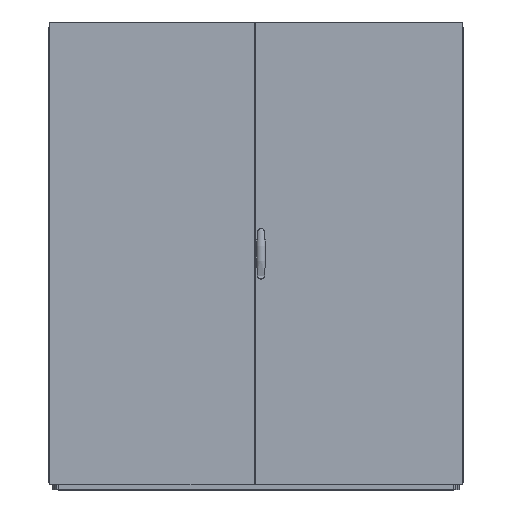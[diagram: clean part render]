
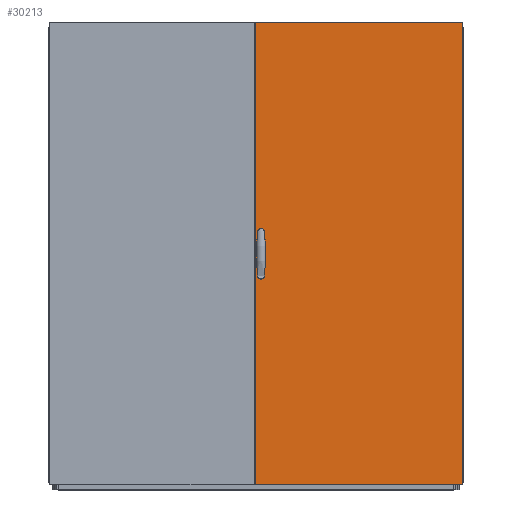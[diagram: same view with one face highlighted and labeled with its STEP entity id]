
A CAD part, top view. The second image highlights one B-rep face of the part: STEP entity #30213.
In plain terms, the highlighted planar face has unit normal (0, 0, 1) as drawn and (0, 0, -1) by its records, which use the part's own axes.
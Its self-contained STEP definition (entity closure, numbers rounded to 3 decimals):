
#392=CIRCLE('',#33959,2.6);
#393=CIRCLE('',#33960,2.6);
#3419=ORIENTED_EDGE('',*,*,#10785,.T.);
#3420=ORIENTED_EDGE('',*,*,#10786,.T.);
#3421=ORIENTED_EDGE('',*,*,#10787,.T.);
#3422=ORIENTED_EDGE('',*,*,#10788,.T.);
#3423=ORIENTED_EDGE('',*,*,#10789,.T.);
#3424=ORIENTED_EDGE('',*,*,#10790,.T.);
#3425=ORIENTED_EDGE('',*,*,#10791,.T.);
#3426=ORIENTED_EDGE('',*,*,#10792,.T.);
#3427=ORIENTED_EDGE('',*,*,#10793,.T.);
#3428=ORIENTED_EDGE('',*,*,#10794,.T.);
#3429=ORIENTED_EDGE('',*,*,#10795,.T.);
#3430=ORIENTED_EDGE('',*,*,#10796,.T.);
#3431=ORIENTED_EDGE('',*,*,#10797,.T.);
#3432=ORIENTED_EDGE('',*,*,#10798,.T.);
#3433=ORIENTED_EDGE('',*,*,#10799,.T.);
#3434=ORIENTED_EDGE('',*,*,#10800,.T.);
#3435=ORIENTED_EDGE('',*,*,#10801,.T.);
#3436=ORIENTED_EDGE('',*,*,#10802,.F.);
#3437=ORIENTED_EDGE('',*,*,#10803,.F.);
#3438=ORIENTED_EDGE('',*,*,#10804,.T.);
#3439=ORIENTED_EDGE('',*,*,#10805,.T.);
#3440=ORIENTED_EDGE('',*,*,#10806,.T.);
#10785=EDGE_CURVE('',#14685,#14686,#17838,.T.);
#10786=EDGE_CURVE('',#14686,#14687,#17839,.T.);
#10787=EDGE_CURVE('',#14687,#14688,#17840,.T.);
#10788=EDGE_CURVE('',#14688,#14689,#17841,.T.);
#10789=EDGE_CURVE('',#14689,#14690,#17842,.T.);
#10790=EDGE_CURVE('',#14690,#14691,#17843,.T.);
#10791=EDGE_CURVE('',#14691,#14692,#17844,.T.);
#10792=EDGE_CURVE('',#14692,#14693,#17845,.T.);
#10793=EDGE_CURVE('',#14693,#14694,#17846,.T.);
#10794=EDGE_CURVE('',#14694,#14695,#17847,.T.);
#10795=EDGE_CURVE('',#14695,#14696,#17848,.T.);
#10796=EDGE_CURVE('',#14696,#14697,#17849,.T.);
#10797=EDGE_CURVE('',#14697,#14698,#17850,.T.);
#10798=EDGE_CURVE('',#14698,#14699,#17851,.T.);
#10799=EDGE_CURVE('',#14699,#14700,#17852,.T.);
#10800=EDGE_CURVE('',#14700,#14685,#17853,.T.);
#10801=EDGE_CURVE('',#14701,#14702,#17854,.T.);
#10802=EDGE_CURVE('',#14703,#14702,#17855,.T.);
#10803=EDGE_CURVE('',#14704,#14703,#17856,.T.);
#10804=EDGE_CURVE('',#14704,#14701,#17857,.T.);
#10805=EDGE_CURVE('',#14705,#14705,#392,.T.);
#10806=EDGE_CURVE('',#14706,#14706,#393,.T.);
#14685=VERTEX_POINT('',#46207);
#14686=VERTEX_POINT('',#46208);
#14687=VERTEX_POINT('',#46210);
#14688=VERTEX_POINT('',#46212);
#14689=VERTEX_POINT('',#46214);
#14690=VERTEX_POINT('',#46216);
#14691=VERTEX_POINT('',#46218);
#14692=VERTEX_POINT('',#46220);
#14693=VERTEX_POINT('',#46222);
#14694=VERTEX_POINT('',#46224);
#14695=VERTEX_POINT('',#46226);
#14696=VERTEX_POINT('',#46228);
#14697=VERTEX_POINT('',#46230);
#14698=VERTEX_POINT('',#46232);
#14699=VERTEX_POINT('',#46234);
#14700=VERTEX_POINT('',#46236);
#14701=VERTEX_POINT('',#46239);
#14702=VERTEX_POINT('',#46240);
#14703=VERTEX_POINT('',#46242);
#14704=VERTEX_POINT('',#46244);
#14705=VERTEX_POINT('',#46247);
#14706=VERTEX_POINT('',#46249);
#17838=LINE('',#46206,#21697);
#17839=LINE('',#46209,#21698);
#17840=LINE('',#46211,#21699);
#17841=LINE('',#46213,#21700);
#17842=LINE('',#46215,#21701);
#17843=LINE('',#46217,#21702);
#17844=LINE('',#46219,#21703);
#17845=LINE('',#46221,#21704);
#17846=LINE('',#46223,#21705);
#17847=LINE('',#46225,#21706);
#17848=LINE('',#46227,#21707);
#17849=LINE('',#46229,#21708);
#17850=LINE('',#46231,#21709);
#17851=LINE('',#46233,#21710);
#17852=LINE('',#46235,#21711);
#17853=LINE('',#46237,#21712);
#17854=LINE('',#46238,#21713);
#17855=LINE('',#46241,#21714);
#17856=LINE('',#46243,#21715);
#17857=LINE('',#46245,#21716);
#21697=VECTOR('',#37812,1000.);
#21698=VECTOR('',#37813,1000.);
#21699=VECTOR('',#37814,1000.);
#21700=VECTOR('',#37815,1000.);
#21701=VECTOR('',#37816,1000.);
#21702=VECTOR('',#37817,1000.);
#21703=VECTOR('',#37818,1000.);
#21704=VECTOR('',#37819,1000.);
#21705=VECTOR('',#37820,1000.);
#21706=VECTOR('',#37821,1000.);
#21707=VECTOR('',#37822,1000.);
#21708=VECTOR('',#37823,1000.);
#21709=VECTOR('',#37824,1000.);
#21710=VECTOR('',#37825,1000.);
#21711=VECTOR('',#37826,1000.);
#21712=VECTOR('',#37827,1000.);
#21713=VECTOR('',#37828,1000.);
#21714=VECTOR('',#37829,1000.);
#21715=VECTOR('',#37830,1000.);
#21716=VECTOR('',#37831,1000.);
#25052=EDGE_LOOP('',(#3419,#3420,#3421,#3422,#3423,#3424,#3425,#3426,#3427,
#3428,#3429,#3430,#3431,#3432,#3433,#3434));
#25053=EDGE_LOOP('',(#3435,#3436,#3437,#3438));
#25054=EDGE_LOOP('',(#3439));
#25055=EDGE_LOOP('',(#3440));
#26974=FACE_BOUND('',#25052,.T.);
#26975=FACE_BOUND('',#25053,.T.);
#26976=FACE_BOUND('',#25054,.T.);
#26977=FACE_BOUND('',#25055,.T.);
#28717=PLANE('',#33958);
#30213=ADVANCED_FACE('',(#26974,#26975,#26976,#26977),#28717,.F.);
#33958=AXIS2_PLACEMENT_3D('',#46205,#37810,#37811);
#33959=AXIS2_PLACEMENT_3D('',#46246,#37832,#37833);
#33960=AXIS2_PLACEMENT_3D('',#46248,#37834,#37835);
#37810=DIRECTION('',(0.,0.,1.));
#37811=DIRECTION('',(1.,0.,0.));
#37812=DIRECTION('',(0.,-1.,0.));
#37813=DIRECTION('',(0.342,-0.94,0.));
#37814=DIRECTION('',(1.,0.,0.));
#37815=DIRECTION('',(0.,1.,0.));
#37816=DIRECTION('',(1.,0.,0.));
#37817=DIRECTION('',(0.,-1.,0.));
#37818=DIRECTION('',(1.,0.,0.));
#37819=DIRECTION('',(0.342,0.94,0.));
#37820=DIRECTION('',(0.,1.,0.));
#37821=DIRECTION('',(-0.342,0.94,0.));
#37822=DIRECTION('',(-1.,0.,0.));
#37823=DIRECTION('',(0.,-1.,0.));
#37824=DIRECTION('',(-1.,0.,0.));
#37825=DIRECTION('',(0.,1.,0.));
#37826=DIRECTION('',(-1.,0.,0.));
#37827=DIRECTION('',(-0.342,-0.94,0.));
#37828=DIRECTION('',(-1.,0.,0.));
#37829=DIRECTION('',(0.,-1.,0.));
#37830=DIRECTION('',(-1.,0.,0.));
#37831=DIRECTION('',(0.,-1.,0.));
#37832=DIRECTION('',(0.,0.,1.));
#37833=DIRECTION('',(1.,0.,0.));
#37834=DIRECTION('',(0.,0.,1.));
#37835=DIRECTION('',(1.,0.,0.));
#46205=CARTESIAN_POINT('',(399.,1782.,-16.8));
#46206=CARTESIAN_POINT('',(365.45,956.256,-16.8));
#46207=CARTESIAN_POINT('',(365.45,956.256,-16.8));
#46208=CARTESIAN_POINT('',(365.45,825.744,-16.8));
#46209=CARTESIAN_POINT('',(365.45,825.744,-16.8));
#46210=CARTESIAN_POINT('',(367.45,820.25,-16.8));
#46211=CARTESIAN_POINT('',(367.45,820.25,-16.8));
#46212=CARTESIAN_POINT('',(372.7,820.25,-16.8));
#46213=CARTESIAN_POINT('',(372.7,820.25,-16.8));
#46214=CARTESIAN_POINT('',(372.7,828.,-16.8));
#46215=CARTESIAN_POINT('',(372.7,828.,-16.8));
#46216=CARTESIAN_POINT('',(383.7,828.,-16.8));
#46217=CARTESIAN_POINT('',(383.7,828.,-16.8));
#46218=CARTESIAN_POINT('',(383.7,820.25,-16.8));
#46219=CARTESIAN_POINT('',(383.7,820.25,-16.8));
#46220=CARTESIAN_POINT('',(388.95,820.25,-16.8));
#46221=CARTESIAN_POINT('',(388.95,820.25,-16.8));
#46222=CARTESIAN_POINT('',(390.95,825.744,-16.8));
#46223=CARTESIAN_POINT('',(390.95,825.744,-16.8));
#46224=CARTESIAN_POINT('',(390.95,956.256,-16.8));
#46225=CARTESIAN_POINT('',(390.95,956.256,-16.8));
#46226=CARTESIAN_POINT('',(388.95,961.75,-16.8));
#46227=CARTESIAN_POINT('',(388.95,961.75,-16.8));
#46228=CARTESIAN_POINT('',(383.7,961.75,-16.8));
#46229=CARTESIAN_POINT('',(383.7,961.75,-16.8));
#46230=CARTESIAN_POINT('',(383.7,954.,-16.8));
#46231=CARTESIAN_POINT('',(383.7,954.,-16.8));
#46232=CARTESIAN_POINT('',(372.7,954.,-16.8));
#46233=CARTESIAN_POINT('',(372.7,954.,-16.8));
#46234=CARTESIAN_POINT('',(372.7,961.75,-16.8));
#46235=CARTESIAN_POINT('',(372.7,961.75,-16.8));
#46236=CARTESIAN_POINT('',(367.45,961.75,-16.8));
#46237=CARTESIAN_POINT('',(367.45,961.75,-16.8));
#46238=CARTESIAN_POINT('',(399.,0.,-16.8));
#46239=CARTESIAN_POINT('',(399.,0.,-16.8));
#46240=CARTESIAN_POINT('',(-399.,0.,-16.8));
#46241=CARTESIAN_POINT('',(-399.,1782.,-16.8));
#46242=CARTESIAN_POINT('',(-399.,1782.,-16.8));
#46243=CARTESIAN_POINT('',(399.,1782.,-16.8));
#46244=CARTESIAN_POINT('',(399.,1782.,-16.8));
#46245=CARTESIAN_POINT('',(399.,1782.,-16.8));
#46246=CARTESIAN_POINT('',(378.2,961.,-16.8));
#46247=CARTESIAN_POINT('',(380.8,961.,-16.8));
#46248=CARTESIAN_POINT('',(378.2,821.,-16.8));
#46249=CARTESIAN_POINT('',(380.8,821.,-16.8));
